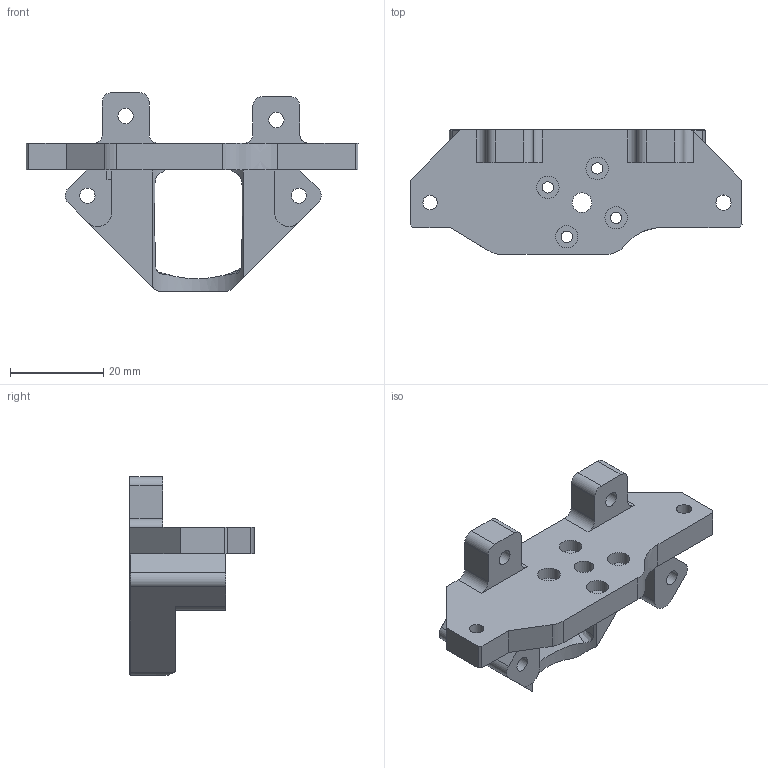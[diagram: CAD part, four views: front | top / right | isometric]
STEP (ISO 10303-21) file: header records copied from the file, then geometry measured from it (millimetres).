
FILE_DESCRIPTION(/* description */ (''),/* implementation_level */ '2;1');
FILE_NAME(/* name */ 'C:/Users/Martin/Documents/icarus-2.1/icarus-2-current-step-files/2-mounts/mount-tbg-lite-dragonfly-bmo-2.1.step',/* time_stamp */ '2022-08-22T21:36:18+02:00',/* author */ (''),/* organization */ (''),/* preprocessor_version */ 'ST-DEVELOPER v19',/* originating_system */ 'Autodesk Translation Framework v11.7.0.108',/* authorisation */ '');
FILE_SCHEMA (('AUTOMOTIVE_DESIGN { 1 0 10303 214 3 1 1 }'));
Length unit declared in the file: millimetre
Products named in the file (1): icarus-2-hotend-extruder-mounts
Bounding box: 71.07 x 26.66 x 42.54 mm (x, y, z)
Volume: 15091.8 mm3; surface area: 8219.7 mm2
Topology: 1 solids, 1 shells, 99 faces, 283 edges, 189 vertices
Faces by surface type: plane 44, cylinder 33, bspline 14, cone 8
Full cylindrical faces by diameter (mm): 2.4 x4, 3.1 x1, 3.25 x4, 3.3 x2, 4.2 x1, 4.8 x4
Entity records: 3931 total; most frequent: CARTESIAN_POINT 1309, ORIENTED_EDGE 566, DIRECTION 483, EDGE_CURVE 283, VERTEX_POINT 189, AXIS2_PLACEMENT_3D 162, LINE 159, VECTOR 159
